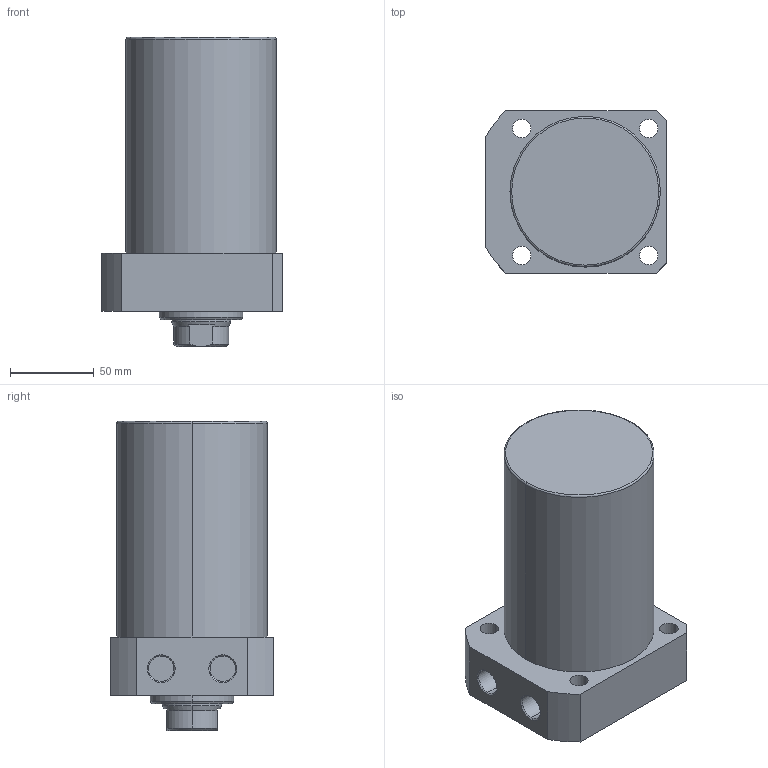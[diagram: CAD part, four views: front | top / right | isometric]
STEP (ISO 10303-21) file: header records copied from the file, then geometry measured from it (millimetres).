
FILE_DESCRIPTION (( 'STEP AP203' ), '1' );
FILE_NAME ('CLLR-090CA-085.STEP', '2019-12-18T06:23:14', ( '' ), ( '' ), 'SwSTEP 2.0', 'SolidWorks 2015', '' );
FILE_SCHEMA (( 'CONFIG_CONTROL_DESIGN' ));
Length unit declared in the file: millimetre
Products named in the file (1): CLLR-090CA-085
Bounding box: 108 x 97 x 185 mm (x, y, z)
Volume: 1169568 mm3; surface area: 81561.3 mm2
Topology: 1 solids, 1 shells, 65 faces, 151 edges, 94 vertices
Faces by surface type: cylinder 29, plane 19, cone 15, torus 2
Entity records: 1977 total; most frequent: CARTESIAN_POINT 357, DIRECTION 350, ORIENTED_EDGE 298, EDGE_CURVE 149, AXIS2_PLACEMENT_3D 143, VERTEX_POINT 94, EDGE_LOOP 81, CIRCLE 77
